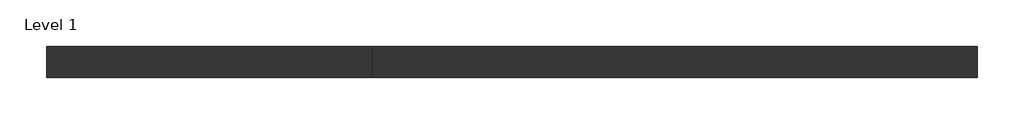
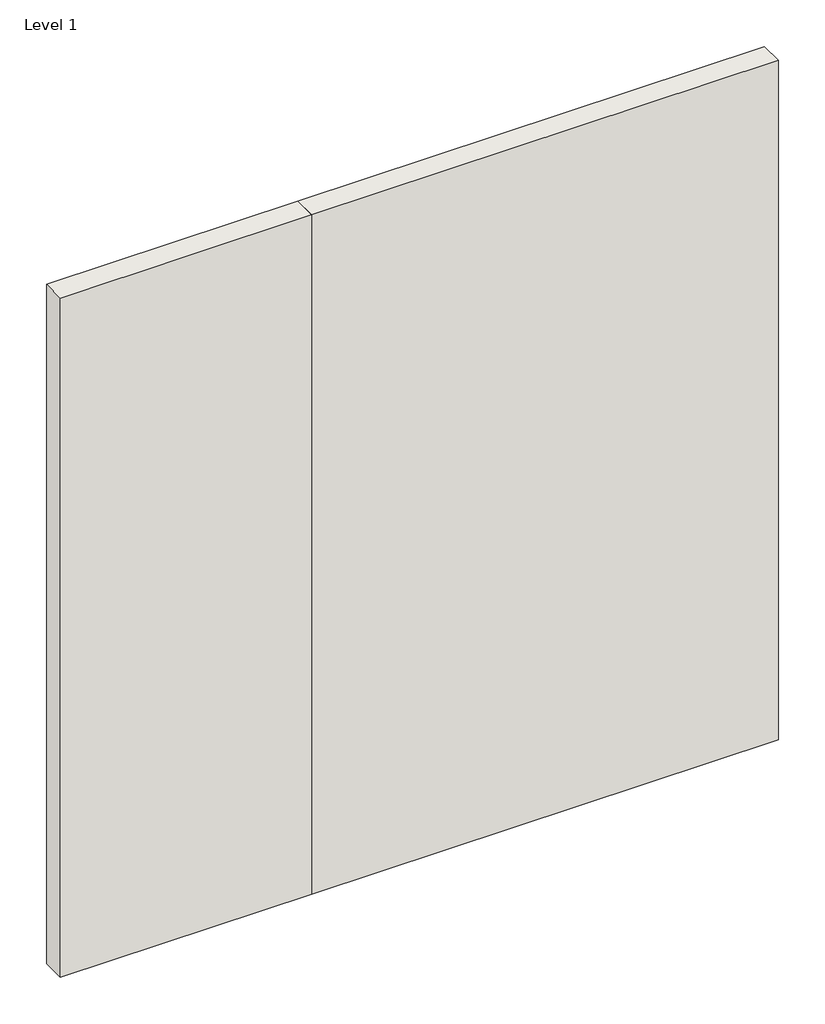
# One storey: 2 walls.
"""IFC4 building model written with IfcOpenShell, lengths in millimetres."""

from ifc_helpers import new_model, si_unit, origin, origin_with_axes, place, context, project, spatial, polyline, outline, extrude, element, save

model = new_model("IFC4")

# Units and contexts
model_context = context("Model", 3, world=origin())
ifc_project = project(units=[si_unit("LENGTHUNIT", "METRE", prefix="MILLI")], contexts=[model_context])

# Site, building, storey
site = spatial("IfcSite", under=ifc_project)
building = spatial("IfcBuilding", under=site)
storey = spatial("IfcBuildingStorey", under=building, Name="Level 1", Elevation=0.0)

# Walls
placement = place(None, origin())
element("IfcWall", 1, ObjectType="Generic - 8\"", at=placement, inside=storey, context=model_context, shape_type="SweptSolid", body=[
    extrude(outline(polyline([(3677.3470165, 2654.6056529), (7639.7470165, 2654.6056529), (7639.7470165, 2451.4056529), (3677.3470165, 2451.4056529), (3677.3470165, 2654.6056529)])), origin_with_axes(), (0.0, 0.0, 1.0), 6096.0),
])
element("IfcWall", 2, ObjectType="Generic - 8\"", at=placement, inside=storey, context=model_context, shape_type="SweptSolid", body=[
    extrude(outline(polyline([(1543.7470165, 2654.6056529), (3677.3470165, 2654.6056529), (3677.3470165, 2451.4056529), (1543.7470165, 2451.4056529), (1543.7470165, 2654.6056529)])), origin_with_axes(), (0.0, 0.0, 1.0), 6096.0),
])

save(model, "model.ifc")
